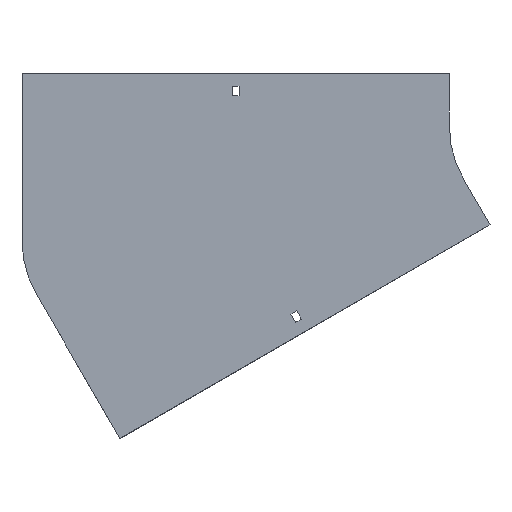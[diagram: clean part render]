
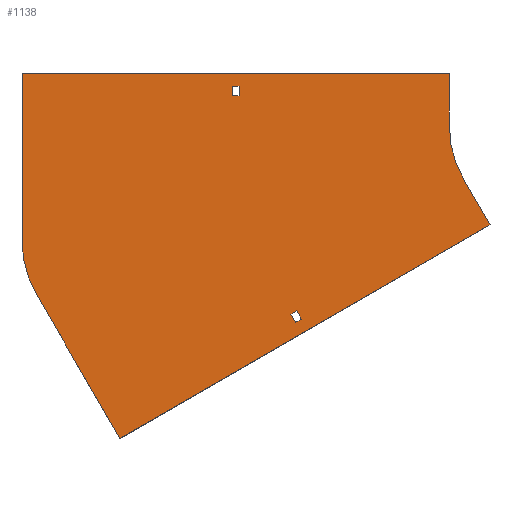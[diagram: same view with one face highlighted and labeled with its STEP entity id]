
A CAD part, front view. The second image highlights one B-rep face of the part: STEP entity #1138.
In plain terms, the highlighted planar face has unit normal (0, -1, 0).
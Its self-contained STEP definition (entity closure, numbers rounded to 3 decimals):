
#7 = ORIENTED_EDGE ( 'NONE', *, *, #752, .F. ) ;
#45 = AXIS2_PLACEMENT_3D ( 'NONE', #1149, #1605, #1141 ) ;
#53 = VERTEX_POINT ( 'NONE', #1669 ) ;
#57 = PLANE ( 'NONE',  #1508 ) ;
#73 = EDGE_CURVE ( 'NONE', #1754, #1099, #318, .T. ) ;
#89 = EDGE_CURVE ( 'NONE', #526, #606, #1376, .T. ) ;
#93 = EDGE_CURVE ( 'NONE', #53, #562, #910, .T. ) ;
#124 = CARTESIAN_POINT ( 'NONE',  ( -249.854, 0., -177.74 ) ) ;
#140 = VECTOR ( 'NONE', #445, 1000. ) ;
#177 = ORIENTED_EDGE ( 'NONE', *, *, #637, .F. ) ;
#189 = VERTEX_POINT ( 'NONE', #1846 ) ;
#199 = EDGE_CURVE ( 'NONE', #497, #439, #1553, .T. ) ;
#262 = ORIENTED_EDGE ( 'NONE', *, *, #1638, .F. ) ;
#267 = CARTESIAN_POINT ( 'NONE',  ( -100., 0., 50. ) ) ;
#280 = CARTESIAN_POINT ( 'NONE',  ( -298.75, 0., 29. ) ) ;
#285 = DIRECTION ( 'NONE',  ( -0.5, 0., 0.866 ) ) ;
#306 = CARTESIAN_POINT ( 'NONE',  ( -245.354, 0., -185.534 ) ) ;
#318 = LINE ( 'NONE', #602, #1934 ) ;
#320 = EDGE_CURVE ( 'NONE', #674, #526, #1617, .T. ) ;
#361 = FACE_BOUND ( 'NONE', #1840, .T. ) ;
#373 = DIRECTION ( 'NONE',  ( 1., 0., 0. ) ) ;
#375 = EDGE_CURVE ( 'NONE', #925, #497, #1764, .T. ) ;
#380 = EDGE_CURVE ( 'NONE', #1099, #665, #1473, .T. ) ;
#386 = CARTESIAN_POINT ( 'NONE',  ( -305.25, 0., 38. ) ) ;
#396 = LINE ( 'NONE', #843, #1842 ) ;
#439 = VERTEX_POINT ( 'NONE', #1207 ) ;
#445 = DIRECTION ( 'NONE',  ( 0., 0., 1. ) ) ;
#497 = VERTEX_POINT ( 'NONE', #306 ) ;
#515 = CARTESIAN_POINT ( 'NONE',  ( -86.603, 0., -50. ) ) ;
#526 = VERTEX_POINT ( 'NONE', #1637 ) ;
#552 = ORIENTED_EDGE ( 'NONE', *, *, #380, .F. ) ;
#562 = VERTEX_POINT ( 'NONE', #964 ) ;
#564 = EDGE_LOOP ( 'NONE', ( #1818, #794, #1539, #1548 ) ) ;
#592 = CARTESIAN_POINT ( 'NONE',  ( -61.603, 0., -93.301 ) ) ;
#602 = CARTESIAN_POINT ( 'NONE',  ( -504., 0., -108.251 ) ) ;
#606 = VERTEX_POINT ( 'NONE', #929 ) ;
#623 = DIRECTION ( 'NONE',  ( 0., 0., 1. ) ) ;
#637 = EDGE_CURVE ( 'NONE', #562, #1131, #1684, .T. ) ;
#658 = CARTESIAN_POINT ( 'NONE',  ( -411.477, 0., -295.301 ) ) ;
#665 = VERTEX_POINT ( 'NONE', #267 ) ;
#673 = VECTOR ( 'NONE', #787, 1000. ) ;
#674 = VERTEX_POINT ( 'NONE', #386 ) ;
#676 = CARTESIAN_POINT ( 'NONE',  ( -490.603, 0., -158.251 ) ) ;
#731 = EDGE_CURVE ( 'NONE', #606, #1169, #396, .T. ) ;
#747 = EDGE_CURVE ( 'NONE', #1182, #189, #1464, .T. ) ;
#752 = EDGE_CURVE ( 'NONE', #189, #53, #993, .T. ) ;
#787 = DIRECTION ( 'NONE',  ( -0.5, 0., 0.866 ) ) ;
#794 = ORIENTED_EDGE ( 'NONE', *, *, #320, .T. ) ;
#803 = CARTESIAN_POINT ( 'NONE',  ( -100., 0., 0. ) ) ;
#814 = DIRECTION ( 'NONE',  ( 0., -1., 0. ) ) ;
#815 = EDGE_CURVE ( 'NONE', #1169, #674, #1349, .T. ) ;
#824 = CARTESIAN_POINT ( 'NONE',  ( -249.854, 0., -177.74 ) ) ;
#834 = ORIENTED_EDGE ( 'NONE', *, *, #1577, .F. ) ;
#843 = CARTESIAN_POINT ( 'NONE',  ( -305.25, 0., 29. ) ) ;
#845 = VECTOR ( 'NONE', #1909, 1000. ) ;
#847 = DIRECTION ( 'NONE',  ( 0.5, 0., -0.866 ) ) ;
#871 = VECTOR ( 'NONE', #1104, 1000. ) ;
#873 = CARTESIAN_POINT ( 'NONE',  ( -244.225, 0., -174.49 ) ) ;
#881 = DIRECTION ( 'NONE',  ( 0., 0., -1. ) ) ;
#882 = CARTESIAN_POINT ( 'NONE',  ( -100., 0., 50. ) ) ;
#906 = VERTEX_POINT ( 'NONE', #873 ) ;
#910 = LINE ( 'NONE', #592, #1210 ) ;
#925 = VERTEX_POINT ( 'NONE', #124 ) ;
#929 = CARTESIAN_POINT ( 'NONE',  ( -298.75, 0., 29. ) ) ;
#935 = EDGE_CURVE ( 'NONE', #439, #906, #1033, .T. ) ;
#964 = CARTESIAN_POINT ( 'NONE',  ( -411.477, 0., -295.301 ) ) ;
#971 = EDGE_LOOP ( 'NONE', ( #552, #1674, #1213, #177, #1782, #7, #1547, #262 ) ) ;
#985 = DIRECTION ( 'NONE',  ( 0., 0., -1. ) ) ;
#993 = LINE ( 'NONE', #515, #1621 ) ;
#1030 = LINE ( 'NONE', #882, #845 ) ;
#1033 = LINE ( 'NONE', #1769, #1588 ) ;
#1040 = EDGE_CURVE ( 'NONE', #1131, #1754, #1318, .T. ) ;
#1061 = ORIENTED_EDGE ( 'NONE', *, *, #199, .F. ) ;
#1077 = DIRECTION ( 'NONE',  ( 0., 1., 0. ) ) ;
#1099 = VERTEX_POINT ( 'NONE', #1364 ) ;
#1102 = CARTESIAN_POINT ( 'NONE',  ( -305.25, 0., 29. ) ) ;
#1104 = DIRECTION ( 'NONE',  ( 0.866, 0., 0.5 ) ) ;
#1120 = DIRECTION ( 'NONE',  ( 0.5, 0., -0.866 ) ) ;
#1131 = VERTEX_POINT ( 'NONE', #676 ) ;
#1138 = ADVANCED_FACE ( 'NONE', ( #1291, #1576, #361 ), #57, .T. ) ;
#1141 = DIRECTION ( 'NONE',  ( 0., 0., -1. ) ) ;
#1149 = CARTESIAN_POINT ( 'NONE',  ( 0., 0., 0. ) ) ;
#1151 = VECTOR ( 'NONE', #881, 1000. ) ;
#1169 = VERTEX_POINT ( 'NONE', #1102 ) ;
#1182 = VERTEX_POINT ( 'NONE', #803 ) ;
#1207 = CARTESIAN_POINT ( 'NONE',  ( -239.725, 0., -182.284 ) ) ;
#1210 = VECTOR ( 'NONE', #1220, 1000. ) ;
#1213 = ORIENTED_EDGE ( 'NONE', *, *, #1040, .F. ) ;
#1220 = DIRECTION ( 'NONE',  ( -0.866, 0., -0.5 ) ) ;
#1230 = AXIS2_PLACEMENT_3D ( 'NONE', #1542, #1077, #1646 ) ;
#1270 = DIRECTION ( 'NONE',  ( -1., 0., 0. ) ) ;
#1291 = FACE_BOUND ( 'NONE', #564, .T. ) ;
#1304 = DIRECTION ( 'NONE',  ( -0.866, 0., -0.5 ) ) ;
#1318 = CIRCLE ( 'NONE', #1230, 100. ) ;
#1321 = CARTESIAN_POINT ( 'NONE',  ( -305.25, 0., 29. ) ) ;
#1325 = CARTESIAN_POINT ( 'NONE',  ( -504., 0., 50. ) ) ;
#1349 = LINE ( 'NONE', #1321, #140 ) ;
#1364 = CARTESIAN_POINT ( 'NONE',  ( -504., 0., 50. ) ) ;
#1376 = LINE ( 'NONE', #280, #1151 ) ;
#1424 = ORIENTED_EDGE ( 'NONE', *, *, #375, .F. ) ;
#1464 = CIRCLE ( 'NONE', #45, 100. ) ;
#1473 = LINE ( 'NONE', #1325, #1879 ) ;
#1508 = AXIS2_PLACEMENT_3D ( 'NONE', #1870, #814, #985 ) ;
#1539 = ORIENTED_EDGE ( 'NONE', *, *, #89, .T. ) ;
#1542 = CARTESIAN_POINT ( 'NONE',  ( -404., 0., -108.251 ) ) ;
#1547 = ORIENTED_EDGE ( 'NONE', *, *, #747, .F. ) ;
#1548 = ORIENTED_EDGE ( 'NONE', *, *, #731, .T. ) ;
#1553 = LINE ( 'NONE', #1855, #871 ) ;
#1554 = CARTESIAN_POINT ( 'NONE',  ( -504., 0., -108.251 ) ) ;
#1567 = VECTOR ( 'NONE', #373, 1000. ) ;
#1576 = FACE_OUTER_BOUND ( 'NONE', #971, .T. ) ;
#1577 = EDGE_CURVE ( 'NONE', #906, #925, #1581, .T. ) ;
#1581 = LINE ( 'NONE', #1589, #1668 ) ;
#1588 = VECTOR ( 'NONE', #285, 1000. ) ;
#1589 = CARTESIAN_POINT ( 'NONE',  ( -249.854, 0., -177.74 ) ) ;
#1605 = DIRECTION ( 'NONE',  ( 0., -1., 0. ) ) ;
#1617 = LINE ( 'NONE', #1723, #1567 ) ;
#1621 = VECTOR ( 'NONE', #1120, 1000. ) ;
#1633 = ORIENTED_EDGE ( 'NONE', *, *, #935, .F. ) ;
#1637 = CARTESIAN_POINT ( 'NONE',  ( -298.75, 0., 38. ) ) ;
#1638 = EDGE_CURVE ( 'NONE', #665, #1182, #1030, .T. ) ;
#1646 = DIRECTION ( 'NONE',  ( 0., 0., 1. ) ) ;
#1668 = VECTOR ( 'NONE', #1304, 1000. ) ;
#1669 = CARTESIAN_POINT ( 'NONE',  ( -61.603, 0., -93.301 ) ) ;
#1674 = ORIENTED_EDGE ( 'NONE', *, *, #73, .F. ) ;
#1684 = LINE ( 'NONE', #658, #673 ) ;
#1723 = CARTESIAN_POINT ( 'NONE',  ( -305.25, 0., 38. ) ) ;
#1743 = DIRECTION ( 'NONE',  ( 1., 0., 0. ) ) ;
#1754 = VERTEX_POINT ( 'NONE', #1554 ) ;
#1764 = LINE ( 'NONE', #824, #1941 ) ;
#1769 = CARTESIAN_POINT ( 'NONE',  ( -244.225, 0., -174.49 ) ) ;
#1782 = ORIENTED_EDGE ( 'NONE', *, *, #93, .F. ) ;
#1818 = ORIENTED_EDGE ( 'NONE', *, *, #815, .T. ) ;
#1840 = EDGE_LOOP ( 'NONE', ( #1061, #1424, #834, #1633 ) ) ;
#1842 = VECTOR ( 'NONE', #1270, 1000. ) ;
#1846 = CARTESIAN_POINT ( 'NONE',  ( -86.603, 0., -50. ) ) ;
#1855 = CARTESIAN_POINT ( 'NONE',  ( -245.354, 0., -185.534 ) ) ;
#1870 = CARTESIAN_POINT ( 'NONE',  ( 0., 0., 0. ) ) ;
#1879 = VECTOR ( 'NONE', #1743, 1000. ) ;
#1909 = DIRECTION ( 'NONE',  ( 0., 0., -1. ) ) ;
#1934 = VECTOR ( 'NONE', #623, 1000. ) ;
#1941 = VECTOR ( 'NONE', #847, 1000. ) ;
